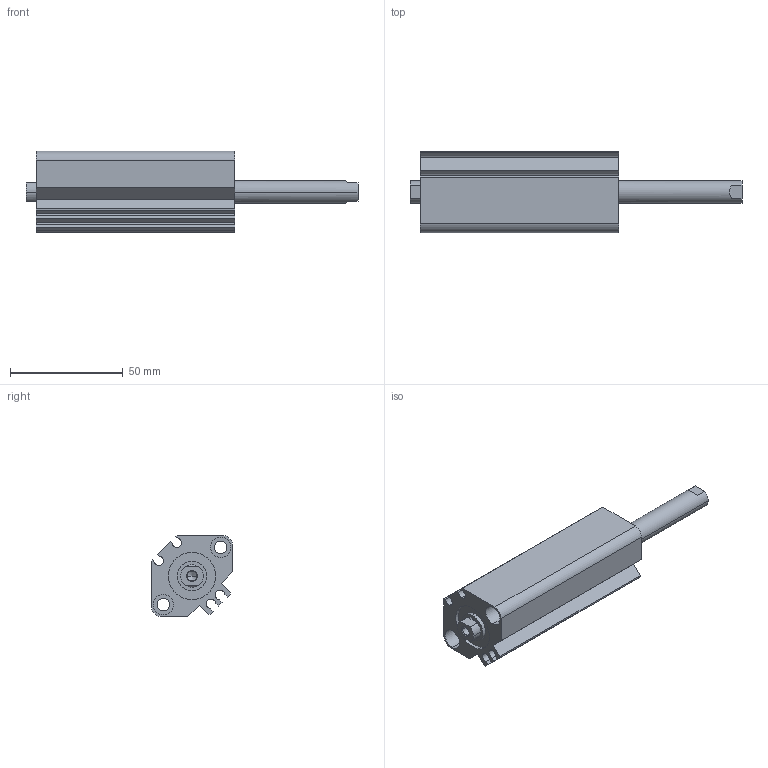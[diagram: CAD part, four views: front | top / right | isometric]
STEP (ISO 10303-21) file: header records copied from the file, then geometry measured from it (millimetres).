
FILE_DESCRIPTION (( 'STEP AP203' ), '1' );
FILE_NAME ('CCMB20-50F-P.STEP', '2020-08-05T11:08:00', ( '' ), ( '' ), 'SwSTEP 2.0', 'SolidWorks 2019', '' );
FILE_SCHEMA (( 'CONFIG_CONTROL_DESIGN' ));
Length unit declared in the file: millimetre
Products named in the file (1): CCMB20-50F-P
Bounding box: 147 x 36 x 36 mm (x, y, z)
Volume: 78216 mm3; surface area: 31944.2 mm2
Topology: 2 solids, 2 shells, 114 faces, 276 edges, 178 vertices
Faces by surface type: cylinder 52, plane 50, cone 12
Entity records: 3419 total; most frequent: DIRECTION 614, CARTESIAN_POINT 577, ORIENTED_EDGE 544, EDGE_CURVE 272, AXIS2_PLACEMENT_3D 231, VERTEX_POINT 178, LINE 152, VECTOR 152
